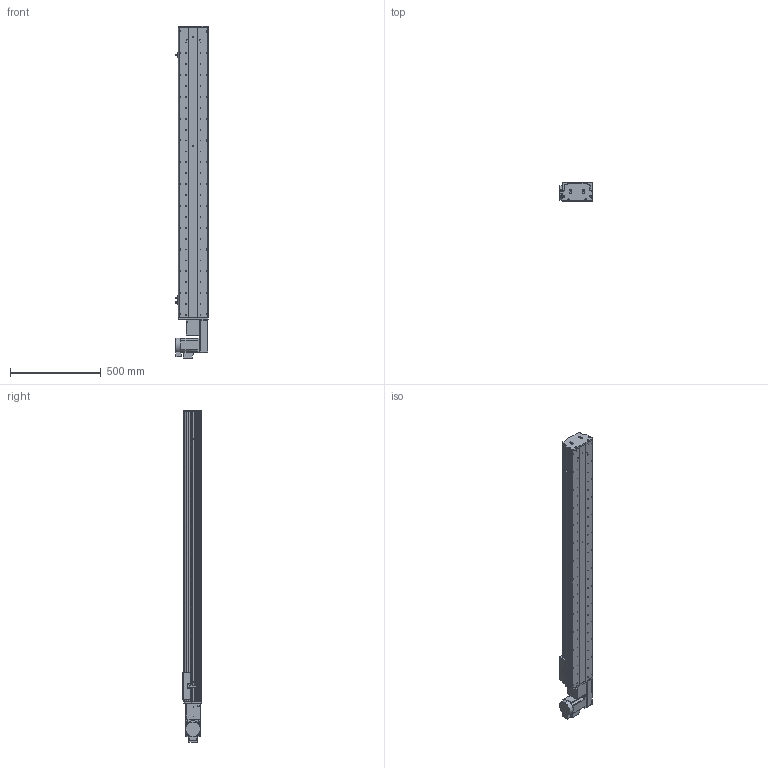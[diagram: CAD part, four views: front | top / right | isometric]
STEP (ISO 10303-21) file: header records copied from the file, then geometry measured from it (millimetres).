
FILE_DESCRIPTION (( 'STEP AP214' ), '1' );
FILE_NAME ('KSD165B-S1350-MRB-CM.STEP', '2017-10-16T09:05:48', ( '微软用户' ), ( '微软中国' ), 'SwSTEP 2.0', 'SolidWorks 2014', '' );
FILE_SCHEMA (( 'AUTOMOTIVE_DESIGN' ));
Length unit declared in the file: millimetre
Products named in the file (17): KSD165耀郪-ヶ傷啣1-肮祭湍; KSD165模组-后端板1-同步带; KSD165模组-同步带滑动座-最新版; KSD165B-S1350-MRB-CM; HTPA26S5M250-A-H8 750W萇儂蚚; HTPA26S5M250-A-H8 400W萇儂蚚 ; 130宽模组马达安装板连板左右折同步带; 130宽模组保护罩上下左右折-同步带; KSD165模组-同步带防尘盖1-1350行程; KSD165模组同步带底板-1350行程; 拸秶雄ん750W侜督萇儂; 165宽马达安装板同步带右; U倰嫖萇假蚾璃; U倰嫖萇EEㄜSX672; 覜茼え68遵圉猾敕; KSD165模组-同步带-防撞垫2; KSD165模组同步带-防撞垫1
Assembly tree (20 placements, depth 2):
  KSD165B-S1350-MRB-CM
    KSD165模组-同步带滑动座-最新版
    KSD165模组-后端板1-同步带
    KSD165耀郪-ヶ傷啣1-肮祭湍
    KSD165模组同步带-防撞垫1
    KSD165模组-同步带-防撞垫2
    覜茼え68遵圉猾敕
    U倰嫖萇EEㄜSX672  x3
    U倰嫖萇假蚾璃  x3
    165宽马达安装板同步带右
    拸秶雄ん750W侜督萇儂
    KSD165模组同步带底板-1350行程
    KSD165模组-同步带防尘盖1-1350行程
    130宽模组保护罩上下左右折-同步带
    130宽模组马达安装板连板左右折同步带
    HTPA26S5M250-A-H8 400W萇儂蚚 
    HTPA26S5M250-A-H8 750W萇儂蚚
Bounding box: 178.7 x 104 x 1827.5 mm (x, y, z)
Volume: 9495246.3 mm3; surface area: 2213047.5 mm2
Topology: 21 solids, 21 shells, 2029 faces, 5742 edges, 3752 vertices
Faces by surface type: cylinder 1323, plane 594, cone 112
Entity records: 66572 total; most frequent: CARTESIAN_POINT 13648, DIRECTION 10882, ORIENTED_EDGE 10144, EDGE_CURVE 5072, AXIS2_PLACEMENT_3D 4280, VERTEX_POINT 3344, CIRCLE 2448, VECTOR 2322
